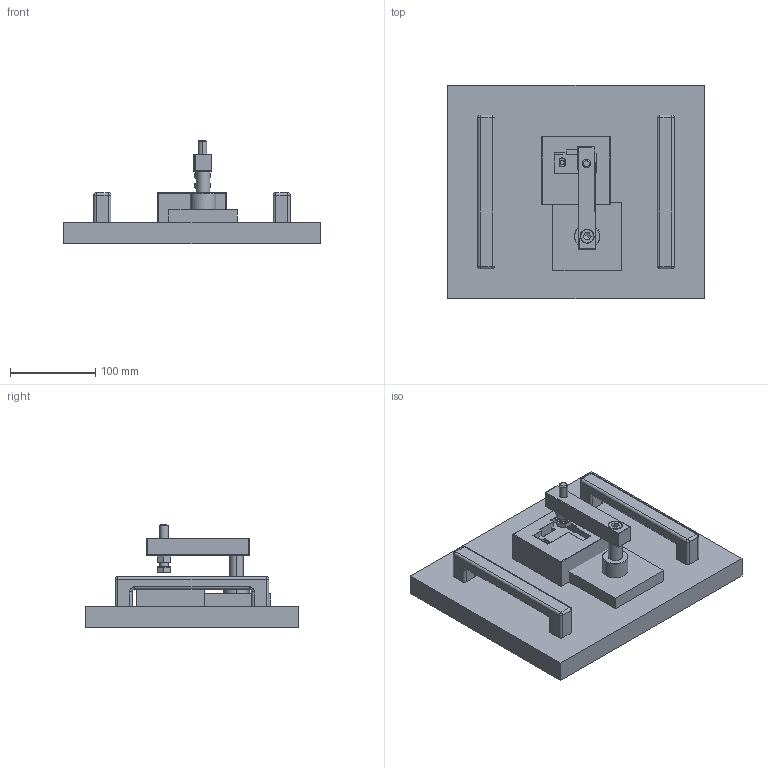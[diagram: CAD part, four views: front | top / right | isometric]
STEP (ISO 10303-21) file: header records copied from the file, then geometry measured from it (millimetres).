
FILE_DESCRIPTION(('CATIA V5 STEP Exchange'),'2;1');
FILE_NAME('D:\7--陈兴旺\气阀固定轴和固定支架\轻卡气阀阀体固定支架装配工装\duanzhouzhuangpei.stp','2024-08-26T03:05:53+00:00',('none'),('none'),'CATIA Version 5 Release 20 GA (IN-10)','CATIA V5 STEP AP214','none');
FILE_SCHEMA(('AUTOMOTIVE_DESIGN { 1 0 10303 214 1 1 1 1 }'));
Length unit declared in the file: millimetre
Products named in the file (10): 产品2; Part13; part14; Part14; Part16; ISO 4762 SCREW M10x30 STEEL HEXAGON SOCKET HEAD CAP; ISO 4014 BOLT M10x50 STEEL GRADE A HEXAGON HEAD; ISO 4032 NUT M10 STEEL GRADE A HEXAGON; ISO 4762 SCREW M6x40 STEEL HEXAGON SOCKET HEAD CAP; ISO 4032 NUT M6 STEEL GRADE A HEXAGON
Assembly tree (15 placements, depth 2):
  产品2
    Part13
    part14
    Part14
    Part16
    ISO 4762 SCREW M10x30 STEEL HEXAGON SOCKET HEAD CAP
    ISO 4014 BOLT M10x50 STEEL GRADE A HEXAGON HEAD
    ISO 4032 NUT M10 STEEL GRADE A HEXAGON
    ISO 4762 SCREW M6x40 STEEL HEXAGON SOCKET HEAD CAP  x4
    ISO 4032 NUT M6 STEEL GRADE A HEXAGON  x4
Bounding box: 300 x 250 x 121.38 mm (x, y, z)
Volume: 2431762.4 mm3; surface area: 270599.9 mm2
Topology: 15 solids, 15 shells, 604 faces, 1415 edges, 823 vertices
Faces by surface type: cylinder 237, plane 189, torus 79, sphere 49, cone 48, bspline 2
Entity records: 13281 total; most frequent: CARTESIAN_POINT 3209, ORIENTED_EDGE 2062, DIRECTION 1817, EDGE_CURVE 1031, AXIS2_PLACEMENT_3D 929, VERTEX_POINT 607, EDGE_LOOP 508, CIRCLE 494
